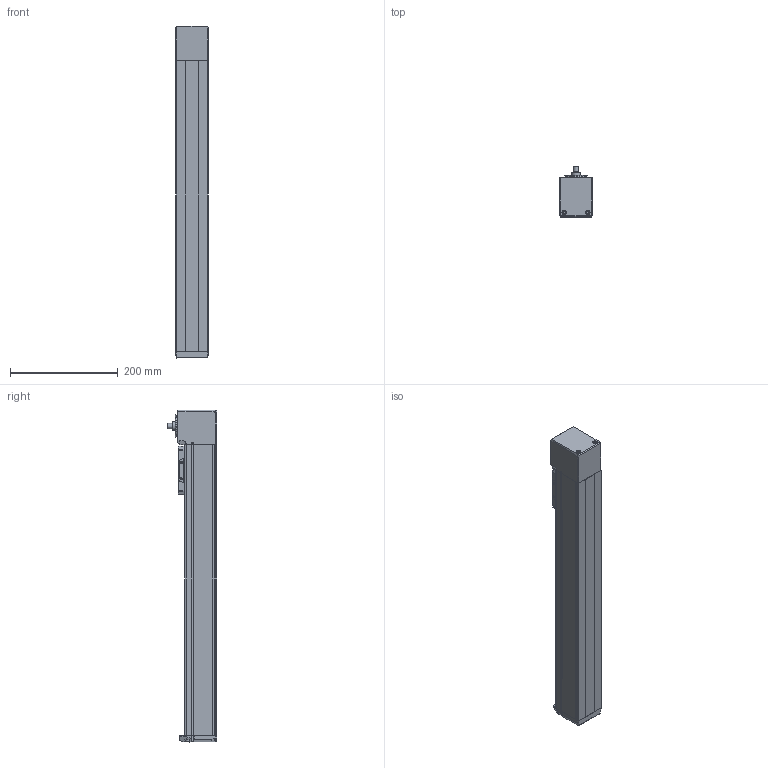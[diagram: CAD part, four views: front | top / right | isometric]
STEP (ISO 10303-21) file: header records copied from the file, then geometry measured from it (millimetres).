
FILE_DESCRIPTION(/* description */ ('STEP AP214'),/* implementation_level */ '2;1');
FILE_NAME(/* name */ 'MGTB 60 400(0)',/* time_stamp */ '2023-04-17T13:39:02+02:00',/* author */ ('License CC BY-ND 4.0'),/* organization */ ('CADENAS'),/* preprocessor_version */ 'ST-DEVELOPER v19.3',/* originating_system */ 'PARTsolutions',/* authorisation */ ' ');
FILE_SCHEMA (('AUTOMOTIVE_DESIGN {1 0 10303 214 3 1 1}'));
Length unit declared in the file: millimetre
Products named in the file (6): MGTB 60 400(0); MGTB 60 400_protection_strip; MGTB 60_carriage; MGTB 60_end_block; MGTB 60 400_profile; MGTB 60_drive_block
Assembly tree (5 placements, depth 2):
  MGTB 60 400(0)
    MGTB 60 400_protection_strip
    MGTB 60_carriage
    MGTB 60_end_block
    MGTB 60 400_profile
    MGTB 60_drive_block
Bounding box: 60 x 92.5 x 615.01 mm (x, y, z)
Volume: 2226632.3 mm3; surface area: 272204.5 mm2
Topology: 5 solids, 5 shells, 696 faces, 1771 edges, 1140 vertices
Faces by surface type: plane 351, cylinder 156, cone 94, bspline 68, torus 25, sphere 2
Full cylindrical faces by diameter (mm): 2 x1, 2.459 x4, 3.242 x6, 4 x12, 4.134 x8, 4.2 x2, 4.8 x2, 5 x2, 5.5 x4, 7 x6, 8 x4, 10 x1, 11 x3, 16 x1, 17 x1, 30 x1, 35 x1, 42 x2
Entity records: 25037 total; most frequent: CARTESIAN_POINT 4184, DIRECTION 3411, ORIENTED_EDGE 3232, EDGE_CURVE 1616, AXIS2_PLACEMENT_3D 1219, VERTEX_POINT 1120, LINE 973, VECTOR 973
